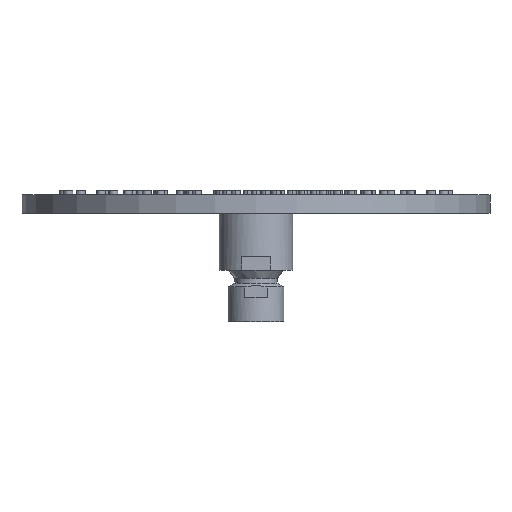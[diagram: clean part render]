
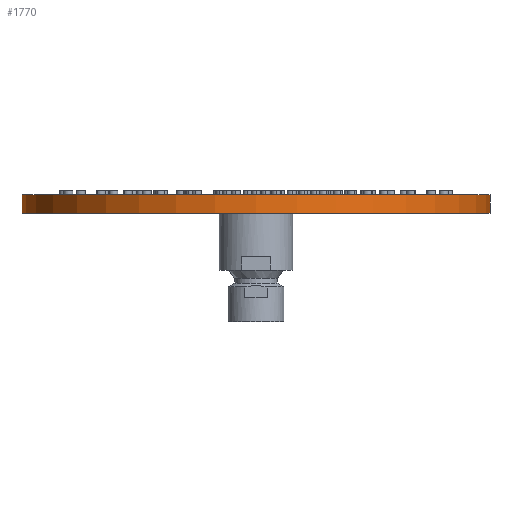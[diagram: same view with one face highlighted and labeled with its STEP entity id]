
A CAD part, front view. The second image highlights one B-rep face of the part: STEP entity #1770.
In plain terms, the highlighted cylindrical face has radius 100.5 mm (diameter 201 mm), a partial arc.
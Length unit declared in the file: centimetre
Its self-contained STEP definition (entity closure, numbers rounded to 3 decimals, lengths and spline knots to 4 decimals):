
#1770=ADVANCED_FACE('',(#3852),#34245,.T.);
#3852=FACE_OUTER_BOUND('',#6255,.T.);
#6255=EDGE_LOOP('',(#10190,#10191,#10192,#10193));
#10190=ORIENTED_EDGE('',*,*,#18919,.T.);
#10191=ORIENTED_EDGE('',*,*,#18922,.T.);
#10192=ORIENTED_EDGE('',*,*,#18921,.T.);
#10193=ORIENTED_EDGE('',*,*,#18920,.T.);
#18919=EDGE_CURVE('',#31292,#31481,#28365,.T.);
#18920=EDGE_CURVE('',#31291,#31292,#23455,.T.);
#18921=EDGE_CURVE('',#31482,#31291,#28366,.T.);
#18922=EDGE_CURVE('',#31481,#31482,#23456,.T.);
#23455=TRIMMED_CURVE($,#25789,(#96413),(#96414),.T.,.CARTESIAN.);
#23456=TRIMMED_CURVE($,#25790,(#96418),(#96419),.T.,.CARTESIAN.);
#25789=CIRCLE('',#36241,10.05);
#25790=CIRCLE('',#36242,10.05);
#28365=B_SPLINE_CURVE_WITH_KNOTS('',1,(#96410,#96411),.UNSPECIFIED.,.F.,
 .F.,(2,2),(-8.,0.),.UNSPECIFIED.);
#28366=B_SPLINE_CURVE_WITH_KNOTS('',1,(#96415,#96416),.UNSPECIFIED.,.F.,
 .F.,(2,2),(-8.,0.),.UNSPECIFIED.);
#31291=VERTEX_POINT('',#93965);
#31292=VERTEX_POINT('',#93966);
#31481=VERTEX_POINT('',#94155);
#31482=VERTEX_POINT('',#94156);
#34245=CYLINDRICAL_SURFACE('',#35279,10.05);
#35279=AXIS2_PLACEMENT_3D('',#49484,#38955,$);
#36241=AXIS2_PLACEMENT_3D($,#96412,#39943,#39944);
#36242=AXIS2_PLACEMENT_3D($,#96417,#39945,#39946);
#38955=DIRECTION('',(0.,0.,-1.));
#39943=DIRECTION('',(0.,0.,-1.));
#39944=DIRECTION('',(1.,0.,0.));
#39945=DIRECTION('',(0.,0.,1.));
#39946=DIRECTION('',(-1.,0.,0.));
#49484=CARTESIAN_POINT('',(0.,0.,-0.3));
#93965=CARTESIAN_POINT('',(10.05,0.,0.1));
#93966=CARTESIAN_POINT('',(-10.05,0.,0.1));
#94155=CARTESIAN_POINT('',(-10.05,0.,-0.7));
#94156=CARTESIAN_POINT('',(10.05,0.,-0.7));
#96410=CARTESIAN_POINT('',(-10.05,0.,0.1));
#96411=CARTESIAN_POINT('',(-10.05,0.,-0.7));
#96412=CARTESIAN_POINT('',(0.,0.,0.1));
#96413=CARTESIAN_POINT('',(10.05,0.,0.1));
#96414=CARTESIAN_POINT('',(-10.05,0.,0.1));
#96415=CARTESIAN_POINT('',(10.05,0.,-0.7));
#96416=CARTESIAN_POINT('',(10.05,0.,0.1));
#96417=CARTESIAN_POINT('',(0.,0.,-0.7));
#96418=CARTESIAN_POINT('',(-10.05,0.,-0.7));
#96419=CARTESIAN_POINT('',(10.05,0.,-0.7));
